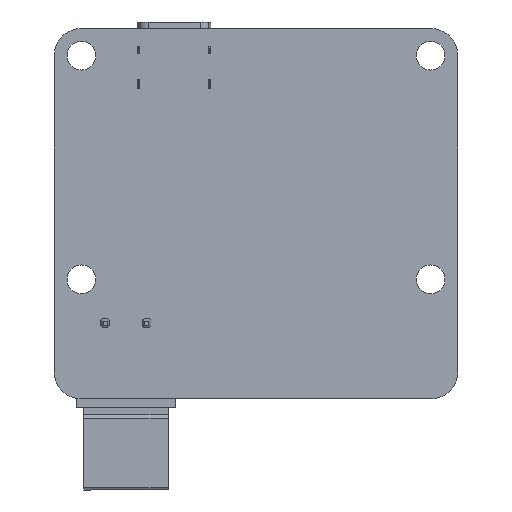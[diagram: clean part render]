
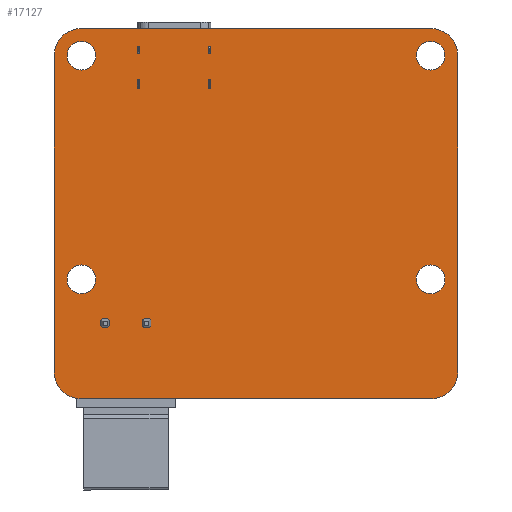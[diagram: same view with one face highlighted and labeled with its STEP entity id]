
A CAD part, front view. The second image highlights one B-rep face of the part: STEP entity #17127.
In plain terms, the highlighted planar face has unit normal (0, -1, 0).
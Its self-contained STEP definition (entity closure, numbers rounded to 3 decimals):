
#194=FACE_BOUND('',#2765,.T.);
#195=FACE_BOUND('',#2766,.T.);
#196=FACE_BOUND('',#2767,.T.);
#197=FACE_BOUND('',#2768,.T.);
#899=CIRCLE('',#18584,1.75);
#900=CIRCLE('',#18586,1.75);
#901=CIRCLE('',#18588,1.75);
#902=CIRCLE('',#18590,1.75);
#903=CIRCLE('',#18593,3.31);
#905=CIRCLE('',#18597,3.31);
#907=CIRCLE('',#18601,3.31);
#909=CIRCLE('',#18605,3.31);
#1806=FACE_OUTER_BOUND('',#2764,.T.);
#2764=EDGE_LOOP('',(#15361,#15362,#15363,#15364,#15365,#15366,#15367,#15368));
#2765=EDGE_LOOP('',(#15369));
#2766=EDGE_LOOP('',(#15370));
#2767=EDGE_LOOP('',(#15371));
#2768=EDGE_LOOP('',(#15372));
#4642=LINE('',#28532,#6525);
#4647=LINE('',#28546,#6530);
#4651=LINE('',#28558,#6534);
#4655=LINE('',#28570,#6538);
#6525=VECTOR('',#23307,10.);
#6530=VECTOR('',#23320,10.);
#6534=VECTOR('',#23332,10.);
#6538=VECTOR('',#23344,10.);
#8102=VERTEX_POINT('',#28514);
#8103=VERTEX_POINT('',#28518);
#8104=VERTEX_POINT('',#28522);
#8105=VERTEX_POINT('',#28526);
#8106=VERTEX_POINT('',#28530);
#8107=VERTEX_POINT('',#28531);
#8110=VERTEX_POINT('',#28539);
#8112=VERTEX_POINT('',#28545);
#8114=VERTEX_POINT('',#28551);
#8116=VERTEX_POINT('',#28557);
#8118=VERTEX_POINT('',#28563);
#8120=VERTEX_POINT('',#28569);
#10508=EDGE_CURVE('',#8102,#8102,#899,.T.);
#10510=EDGE_CURVE('',#8103,#8103,#900,.T.);
#10512=EDGE_CURVE('',#8104,#8104,#901,.T.);
#10514=EDGE_CURVE('',#8105,#8105,#902,.T.);
#10515=EDGE_CURVE('',#8106,#8107,#4642,.T.);
#10519=EDGE_CURVE('',#8110,#8107,#903,.T.);
#10522=EDGE_CURVE('',#8110,#8112,#4647,.T.);
#10525=EDGE_CURVE('',#8114,#8112,#905,.T.);
#10528=EDGE_CURVE('',#8114,#8116,#4651,.T.);
#10531=EDGE_CURVE('',#8118,#8116,#907,.T.);
#10534=EDGE_CURVE('',#8118,#8120,#4655,.T.);
#10537=EDGE_CURVE('',#8106,#8120,#909,.T.);
#15361=ORIENTED_EDGE('',*,*,#10537,.F.);
#15362=ORIENTED_EDGE('',*,*,#10515,.T.);
#15363=ORIENTED_EDGE('',*,*,#10519,.F.);
#15364=ORIENTED_EDGE('',*,*,#10522,.T.);
#15365=ORIENTED_EDGE('',*,*,#10525,.F.);
#15366=ORIENTED_EDGE('',*,*,#10528,.T.);
#15367=ORIENTED_EDGE('',*,*,#10531,.F.);
#15368=ORIENTED_EDGE('',*,*,#10534,.T.);
#15369=ORIENTED_EDGE('',*,*,#10514,.F.);
#15370=ORIENTED_EDGE('',*,*,#10512,.F.);
#15371=ORIENTED_EDGE('',*,*,#10510,.F.);
#15372=ORIENTED_EDGE('',*,*,#10508,.F.);
#16019=PLANE('',#18608);
#17127=ADVANCED_FACE('',(#1806,#194,#195,#196,#197),#16019,.F.);
#18584=AXIS2_PLACEMENT_3D('',#28516,#23288,#23289);
#18586=AXIS2_PLACEMENT_3D('',#28520,#23293,#23294);
#18588=AXIS2_PLACEMENT_3D('',#28524,#23298,#23299);
#18590=AXIS2_PLACEMENT_3D('',#28528,#23303,#23304);
#18593=AXIS2_PLACEMENT_3D('',#28540,#23313,#23314);
#18597=AXIS2_PLACEMENT_3D('',#28552,#23325,#23326);
#18601=AXIS2_PLACEMENT_3D('',#28564,#23337,#23338);
#18605=AXIS2_PLACEMENT_3D('',#28575,#23349,#23350);
#18608=AXIS2_PLACEMENT_3D('',#28578,#23355,#23356);
#23288=DIRECTION('center_axis',(0.,-1.,0.));
#23289=DIRECTION('ref_axis',(1.,0.,0.));
#23293=DIRECTION('center_axis',(0.,-1.,0.));
#23294=DIRECTION('ref_axis',(1.,0.,0.));
#23298=DIRECTION('center_axis',(0.,-1.,0.));
#23299=DIRECTION('ref_axis',(1.,0.,0.));
#23303=DIRECTION('center_axis',(0.,-1.,0.));
#23304=DIRECTION('ref_axis',(1.,0.,0.));
#23307=DIRECTION('',(0.,0.,1.));
#23313=DIRECTION('center_axis',(0.,1.,0.));
#23314=DIRECTION('ref_axis',(0.,0.,1.));
#23320=DIRECTION('',(-1.,0.,0.));
#23325=DIRECTION('center_axis',(0.,1.,0.));
#23326=DIRECTION('ref_axis',(-1.,0.,0.));
#23332=DIRECTION('',(0.,0.,-1.));
#23337=DIRECTION('center_axis',(0.,1.,0.));
#23338=DIRECTION('ref_axis',(0.,0.,-1.));
#23344=DIRECTION('',(1.,0.,0.));
#23349=DIRECTION('center_axis',(0.,1.,0.));
#23350=DIRECTION('ref_axis',(1.,0.,0.));
#23355=DIRECTION('center_axis',(0.,1.,0.));
#23356=DIRECTION('ref_axis',(1.,0.,0.));
#28514=CARTESIAN_POINT('',(-22.99,0.,-3.31));
#28516=CARTESIAN_POINT('Origin',(-21.24,0.,-3.31));
#28518=CARTESIAN_POINT('',(19.49,0.,-3.31));
#28520=CARTESIAN_POINT('Origin',(21.24,0.,-3.31));
#28522=CARTESIAN_POINT('',(-22.99,0.,-30.51));
#28524=CARTESIAN_POINT('Origin',(-21.24,0.,-30.51));
#28526=CARTESIAN_POINT('',(19.49,0.,-30.51));
#28528=CARTESIAN_POINT('Origin',(21.24,0.,-30.51));
#28530=CARTESIAN_POINT('',(24.55,0.,-41.75));
#28531=CARTESIAN_POINT('',(24.55,0.,-3.31));
#28532=CARTESIAN_POINT('',(24.55,0.,-41.75));
#28539=CARTESIAN_POINT('',(21.24,0.,0.));
#28540=CARTESIAN_POINT('Origin',(21.24,0.,-3.31));
#28545=CARTESIAN_POINT('',(-21.24,0.,0.));
#28546=CARTESIAN_POINT('',(21.24,0.,0.));
#28551=CARTESIAN_POINT('',(-24.55,0.,-3.31));
#28552=CARTESIAN_POINT('Origin',(-21.24,0.,-3.31));
#28557=CARTESIAN_POINT('',(-24.55,0.,-41.75));
#28558=CARTESIAN_POINT('',(-24.55,0.,-3.31));
#28563=CARTESIAN_POINT('',(-21.24,0.,-45.06));
#28564=CARTESIAN_POINT('Origin',(-21.24,0.,-41.75));
#28569=CARTESIAN_POINT('',(21.24,0.,-45.06));
#28570=CARTESIAN_POINT('',(-21.24,0.,-45.06));
#28575=CARTESIAN_POINT('Origin',(21.24,0.,-41.75));
#28578=CARTESIAN_POINT('Origin',(0.,0.,-22.53));
